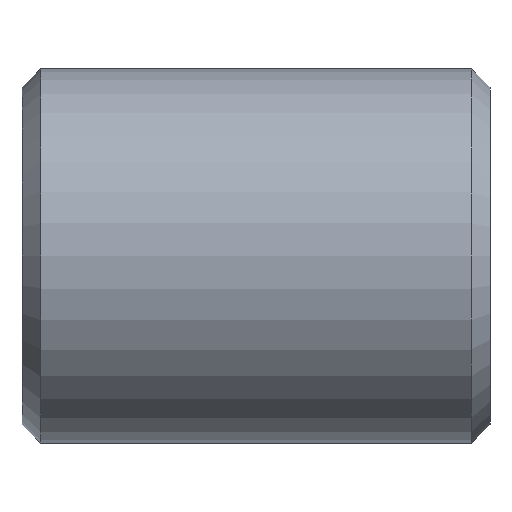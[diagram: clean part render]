
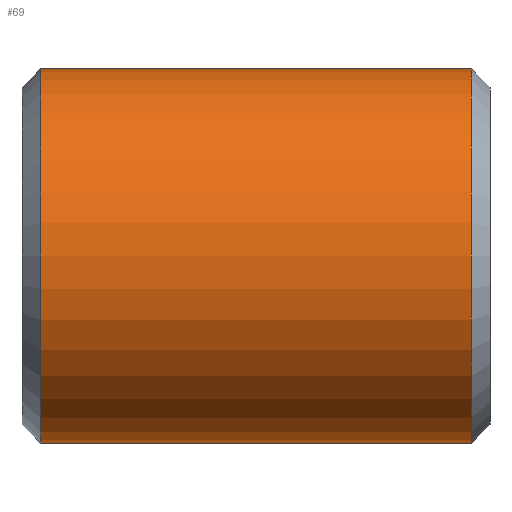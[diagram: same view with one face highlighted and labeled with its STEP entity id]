
A CAD part, left-side view. The second image highlights one B-rep face of the part: STEP entity #69.
In plain terms, the highlighted cylindrical face has radius 8 mm (diameter 16 mm), a full revolution.
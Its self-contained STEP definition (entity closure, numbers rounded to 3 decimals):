
#69=ADVANCED_FACE('',(#70),#100,.T.);
#70=FACE_BOUND('',#71,.T.);
#71=EDGE_LOOP('',(#72,#81,#88,#97,#99));
#72=ORIENTED_EDGE('',*,*,#73,.T.);
#73=EDGE_CURVE('',#74,#74,#76,.T.);
#74=VERTEX_POINT('',#75);
#75=CARTESIAN_POINT('',(0.,7.9,-8.0));
#76=CIRCLE('',#77,8.0);
#77=AXIS2_PLACEMENT_3D('',#78,#79,#80);
#78=CARTESIAN_POINT('',(0.0,7.9,0.0));
#79=DIRECTION('',(0.0,1.0,0.0));
#80=DIRECTION('',(0.0,0.0,-1.0));
#81=ORIENTED_EDGE('',*,*,#82,.T.);
#82=EDGE_CURVE('',#74,#83,#85,.F.);
#83=VERTEX_POINT('',#84);
#84=CARTESIAN_POINT('',(0.,26.3,-8.0));
#85=B_SPLINE_CURVE_WITH_KNOTS('',1,(#86,#87),.UNSPECIFIED.,.F.,.U.,(2,2),(-26.3,-7.9),.PIECEWISE_BEZIER_KNOTS.);
#86=CARTESIAN_POINT('',(0.,26.3,-8.0));
#87=CARTESIAN_POINT('',(0.,7.9,-8.0));
#88=ORIENTED_EDGE('',*,*,#89,.T.);
#89=EDGE_CURVE('',#83,#90,#92,.T.);
#90=VERTEX_POINT('',#91);
#91=CARTESIAN_POINT('',(0.,26.3,8.0));
#92=CIRCLE('',#93,8.0);
#93=AXIS2_PLACEMENT_3D('',#94,#95,#96);
#94=CARTESIAN_POINT('',(0.0,26.3,0.0));
#95=DIRECTION('',(0.0,-1.0,0.0));
#96=DIRECTION('',(0.0,0.0,1.0));
#97=ORIENTED_EDGE('',*,*,#98,.T.);
#98=EDGE_CURVE('',#90,#83,#92,.T.);
#99=ORIENTED_EDGE('',*,*,#82,.F.);
#100=CYLINDRICAL_SURFACE('',#101,8.0);
#101=AXIS2_PLACEMENT_3D('',#102,#103,#104);
#102=CARTESIAN_POINT('',(0.0,0.0,0.0));
#103=DIRECTION('',(0.0,-1.0,0.0));
#104=DIRECTION('',(0.0,0.0,-1.0));
